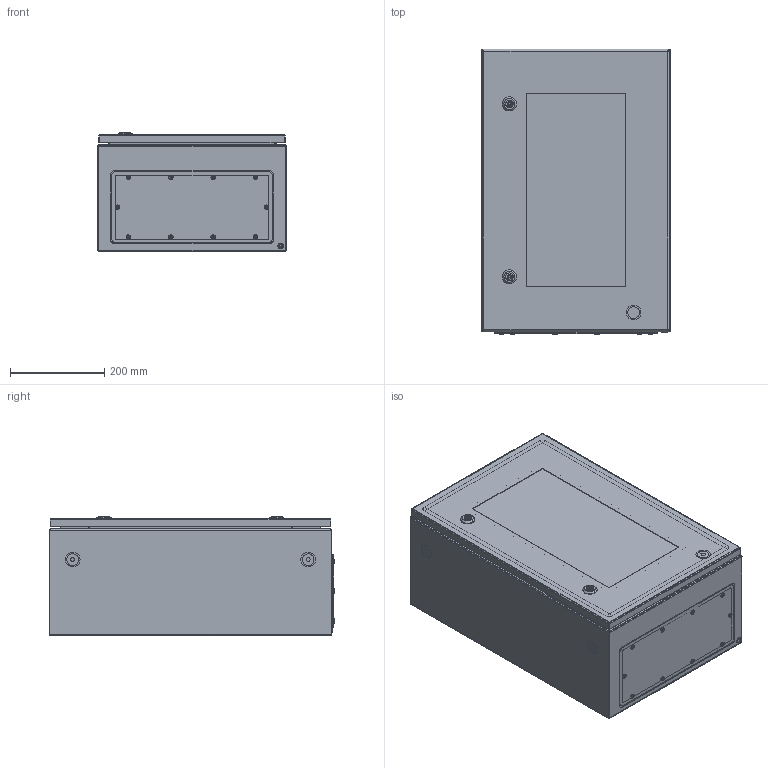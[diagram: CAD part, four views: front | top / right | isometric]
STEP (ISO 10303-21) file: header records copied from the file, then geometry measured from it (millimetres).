
FILE_DESCRIPTION (( 'STEP AP214' ), '1' );
FILE_NAME ('CCV 60.40.25.STEP', '2025-09-18T13:41:14', ( '' ), ( '' ), 'SwSTEP 2.0', 'SolidWorks 2019', '' );
FILE_SCHEMA (( 'AUTOMOTIVE_DESIGN' ));
Length unit declared in the file: millimetre
Products named in the file (28): ßçû÷îê çàìêà LC 5DB.S; KIT_Øòèôò_ô5_Ìîäóëü; MPC X.Y Ïàíåëü ìîíòàæíàÿ_MPC 60.40; Ãàéêà Ì8 DIN 934; Âèíò ðåçüáîâûäàâëèâàþùèé ñ ïîëóïîòàéíîé ãîëîâêîé Ì5õ12; hex flange nut_din_Hexagon Flange Nut DIN 6923 - M8 - N; KIT_Çàæèìíîå êîëüöî_ïîëèîêñèìåòèëåí_ô5_EMKA 1031-U16; CCV 60.40.25; CCS X.Y.Z.01.000捘 扻豵鵨_CCS 60.40.25; Çàìîê LC 5DB.S_‡ ¬®ª LC 5DB.S_45mm; Ïåòëÿ KIT_Ìîäóëü_êîðïóñíàÿ ÷àñòü â ñáîðå; Øïèëüêà çàçåìëåíèÿ Ì6õ17,5_˜¯¨«ìª  § §¥¬«¥­¨ï Œ6å17,5 á ª®«¯ çª®¬; Essentra_d6,3_1287228; Ïåòëÿ ïðèâàðíàÿ ÷àñòü; CCV X.Y.02.001 拟屦黖CCV 60.40; Øïèëüêà çàçåìëåíèÿ Ì6õ17,5_˜¯¨«ìª  § §¥¬«¥­¨ï Œ6å17,5; CCV X.Y.02.002 栺樏鋋_CCV 60.40; Ïåòëÿ KIT_Ìîäóëü_êîðïóñíàÿ ÷àñòü; PKV Y.15 相礤朦 赅徨朦眍泐 忖钿郷PKV 40(15); Øïèëüêà Ì8õ25; CCV X.Y.02.000蚜 拟屦黖CCV 60.40; ﾇ瑟鶴 LC 5DB.S; pan head cross recess screw_din_DIN EN ISO 7045 - M5 x 6 - Z - 6N; plain washer grade a_din_Washer DIN 125 - A 5.3; Essentra_d9.3_055009300003; CCS X.Y.Z.01.001 扻豵鵨_CCS 60.40.25
Assembly tree (57 placements, depth 3):
  CCV 60.40.25
    CCS X.Y.Z.01.000捘 扻豵鵨_CCS 60.40.25
      CCS X.Y.Z.01.001 扻豵鵨_CCS 60.40.25
      Øïèëüêà çàçåìëåíèÿ Ì6õ17,5_˜¯¨«ìª  § §¥¬«¥­¨ï Œ6å17,5  x4
      Øïèëüêà Ì8õ25  x4
    Ïåòëÿ KIT_Ìîäóëü_êîðïóñíàÿ ÷àñòü â ñáîðå
      Ïåòëÿ KIT_Ìîäóëü_êîðïóñíàÿ ÷àñòü
      KIT_Øòèôò_ô5_Ìîäóëü
      KIT_Çàæèìíîå êîëüöî_ïîëèîêñèìåòèëåí_ô5_EMKA 1031-U16
    Ïåòëÿ KIT_Ìîäóëü_êîðïóñíàÿ ÷àñòü â ñáîðå
      Ïåòëÿ KIT_Ìîäóëü_êîðïóñíàÿ ÷àñòü
      KIT_Øòèôò_ô5_Ìîäóëü
      KIT_Çàæèìíîå êîëüöî_ïîëèîêñèìåòèëåí_ô5_EMKA 1031-U16
    CCV X.Y.02.000蚜 拟屦黖CCV 60.40
      CCV X.Y.02.001 拟屦黖CCV 60.40
      Øïèëüêà çàçåìëåíèÿ Ì6õ17,5_˜¯¨«ìª  § §¥¬«¥­¨ï Œ6å17,5 á ª®«¯ çª®¬
      CCV X.Y.02.002 栺樏鋋_CCV 60.40
      Ïåòëÿ ïðèâàðíàÿ ÷àñòü  x2
    MPC X.Y Ïàíåëü ìîíòàæíàÿ_MPC 60.40
    PKV Y.15 相礤朦 赅徨朦眍泐 忖钿郷PKV 40(15)
    pan head cross recess screw_din_DIN EN ISO 7045 - M5 x 6 - Z - 6N  x2
    plain washer grade a_din_Washer DIN 125 - A 5.3  x2
    Ãàéêà Ì8 DIN 934  x4
    hex flange nut_din_Hexagon Flange Nut DIN 6923 - M8 - N  x4
    Âèíò ðåçüáîâûäàâëèâàþùèé ñ ïîëóïîòàéíîé ãîëîâêîé Ì5õ12  x10
    Essentra_d9.3_055009300003
    Essentra_d6,3_1287228  x2
    Çàìîê LC 5DB.S_‡ ¬®ª LC 5DB.S_45mm
      ﾇ瑟鶴 LC 5DB.S
      ßçû÷îê çàìêà LC 5DB.S
    Çàìîê LC 5DB.S_‡ ¬®ª LC 5DB.S_45mm
      ﾇ瑟鶴 LC 5DB.S
      ßçû÷îê çàìêà LC 5DB.S
Bounding box: 400 x 606.62 x 253.65 mm (x, y, z)
Volume: 2308811.7 mm3; surface area: 2687040.3 mm2
Topology: 55 solids, 55 shells, 2398 faces, 5944 edges, 3686 vertices
Faces by surface type: plane 914, cylinder 889, cone 290, bspline 144, torus 124, sphere 37
Entity records: 50573 total; most frequent: CARTESIAN_POINT 20318, ORIENTED_EDGE 5990, DIRECTION 5888, EDGE_CURVE 2995, AXIS2_PLACEMENT_3D 2198, VERTEX_POINT 1859, LINE 1492, VECTOR 1492
